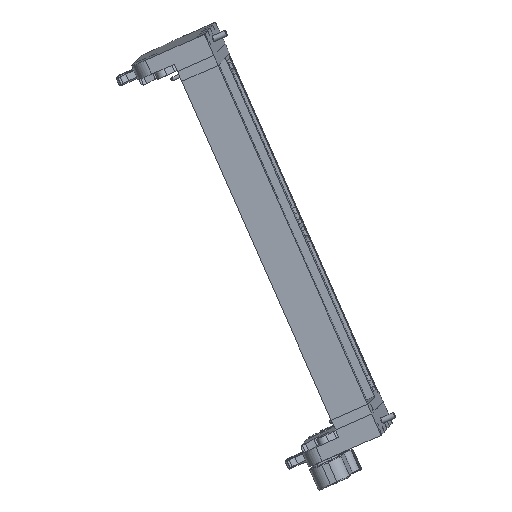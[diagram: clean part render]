
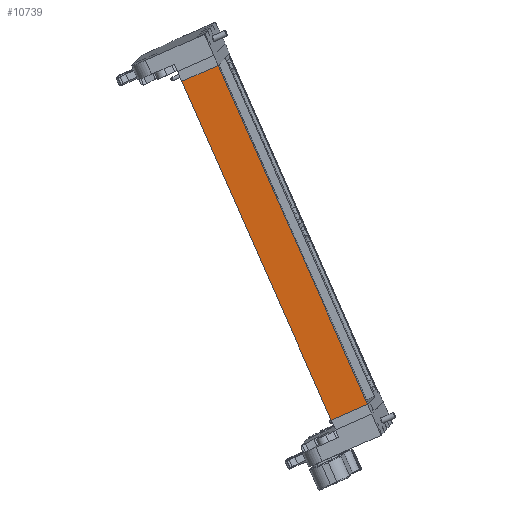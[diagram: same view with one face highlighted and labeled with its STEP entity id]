
A CAD part, top view. The second image highlights one B-rep face of the part: STEP entity #10739.
In plain terms, the highlighted planar face has unit normal (-0.031, -0.036, 0.999).
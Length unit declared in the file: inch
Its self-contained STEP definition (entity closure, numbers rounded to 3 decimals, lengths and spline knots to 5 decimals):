
#10634=CARTESIAN_POINT('',(-9.28656,5.54948,7.38453));
#10635=VERTEX_POINT('',#10634);
#10636=CARTESIAN_POINT('',(-8.1114,6.06641,7.43942));
#10637=VERTEX_POINT('',#10636);
#10638=CARTESIAN_POINT('',(-9.28656,5.54948,7.38453));
#10639=DIRECTION('',(0.915,0.402,0.043));
#10640=VECTOR('',#10639,1.285);
#10641=LINE('',#10638,#10640);
#10642=EDGE_CURVE('',#10635,#10637,#10641,.T.);
#10692=CARTESIAN_POINT('',(-4.44626,-5.42831,7.14036));
#10693=VERTEX_POINT('',#10692);
#10700=CARTESIAN_POINT('',(-9.28656,5.54948,7.38453));
#10701=DIRECTION('',(0.403,-0.915,-0.02));
#10702=VECTOR('',#10701,12.);
#10703=LINE('',#10700,#10702);
#10704=EDGE_CURVE('',#10635,#10693,#10703,.T.);
#10716=CARTESIAN_POINT('',(-9.28656,5.54948,7.38453));
#10717=DIRECTION('',(-0.031,-0.036,0.999));
#10718=DIRECTION('',(-0.403,0.915,0.02));
#10719=AXIS2_PLACEMENT_3D('',#10716,#10717,#10718);
#10720=PLANE('',#10719);
#10721=CARTESIAN_POINT('',(-3.2711,-4.91139,7.19525));
#10722=VERTEX_POINT('',#10721);
#10723=CARTESIAN_POINT('',(-4.44626,-5.42831,7.14036));
#10724=DIRECTION('',(0.915,0.402,0.043));
#10725=VECTOR('',#10724,1.285);
#10726=LINE('',#10723,#10725);
#10727=EDGE_CURVE('',#10693,#10722,#10726,.T.);
#10728=ORIENTED_EDGE('',*,*,#10727,.T.);
#10729=CARTESIAN_POINT('',(-8.1114,6.06641,7.43942));
#10730=DIRECTION('',(0.403,-0.915,-0.02));
#10731=VECTOR('',#10730,12.);
#10732=LINE('',#10729,#10731);
#10733=EDGE_CURVE('',#10637,#10722,#10732,.T.);
#10734=ORIENTED_EDGE('',*,*,#10733,.F.);
#10735=ORIENTED_EDGE('',*,*,#10642,.F.);
#10736=ORIENTED_EDGE('',*,*,#10704,.T.);
#10737=EDGE_LOOP('',(#10728,#10734,#10735,#10736));
#10738=FACE_OUTER_BOUND('',#10737,.T.);
#10739=ADVANCED_FACE('',(#10738),#10720,.T.);
